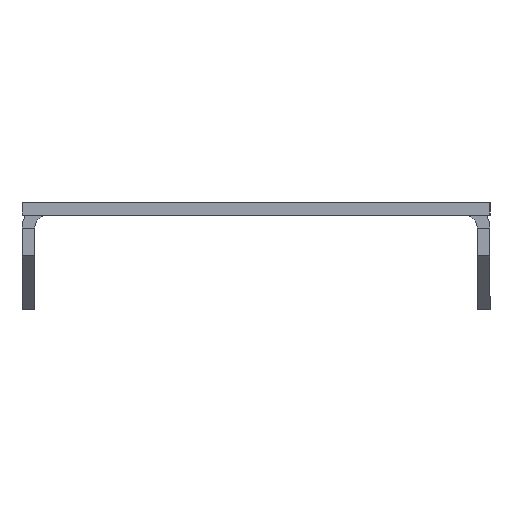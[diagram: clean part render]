
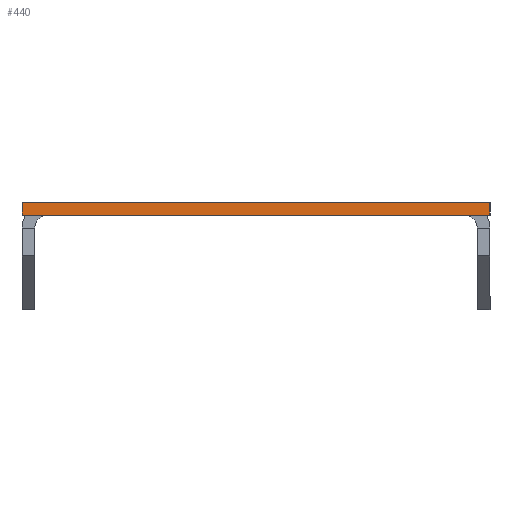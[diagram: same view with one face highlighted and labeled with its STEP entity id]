
A CAD part, left-side view. The second image highlights one B-rep face of the part: STEP entity #440.
In plain terms, the highlighted planar face has unit normal (-1, 0, 0).
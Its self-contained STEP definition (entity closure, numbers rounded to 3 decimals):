
#227 = CARTESIAN_POINT ( 'NONE',  ( -241.3, 21.8, 0. ) ) ;
#254 = CARTESIAN_POINT ( 'NONE',  ( -241.3, -21.8, 0. ) ) ;
#265 = CARTESIAN_POINT ( 'NONE',  ( -241.3, -21.8, 1.2 ) ) ;
#343 = EDGE_CURVE ( 'NONE', #547, #574, #1359, .T. ) ;
#366 = EDGE_CURVE ( 'NONE', #1690, #585, #1290, .T. ) ;
#381 = EDGE_CURVE ( 'NONE', #547, #1690, #1243, .T. ) ;
#382 = EDGE_CURVE ( 'NONE', #574, #585, #1240, .T. ) ;
#440 = ADVANCED_FACE ( 'NONE', ( #1771 ), #1064, .F. ) ;
#547 = VERTEX_POINT ( 'NONE', #733 ) ;
#574 = VERTEX_POINT ( 'NONE', #265 ) ;
#585 = VERTEX_POINT ( 'NONE', #254 ) ;
#647 = EDGE_LOOP ( 'NONE', ( #1482, #1483, #1481, #1485 ) ) ;
#733 = CARTESIAN_POINT ( 'NONE',  ( -241.3, 21.8, 1.2 ) ) ;
#1058 = DIRECTION ( 'NONE',  ( 0., 0., -1. ) ) ;
#1059 = DIRECTION ( 'NONE',  ( 1., 0., 0. ) ) ;
#1060 = CARTESIAN_POINT ( 'NONE',  ( -241.3, 21.8, 1.2 ) ) ;
#1064 = PLANE ( 'NONE',  #1768 ) ;
#1238 = DIRECTION ( 'NONE',  ( 0., 0., -1. ) ) ;
#1239 = CARTESIAN_POINT ( 'NONE',  ( -241.3, -21.8, 1.2 ) ) ;
#1240 = LINE ( 'NONE', #1239, #1766 ) ;
#1241 = DIRECTION ( 'NONE',  ( 0., 0., -1. ) ) ;
#1242 = CARTESIAN_POINT ( 'NONE',  ( -241.3, 21.8, 1.2 ) ) ;
#1243 = LINE ( 'NONE', #1242, #1724 ) ;
#1288 = DIRECTION ( 'NONE',  ( 0., -1., 0. ) ) ;
#1289 = CARTESIAN_POINT ( 'NONE',  ( -241.3, 21.8, 0. ) ) ;
#1290 = LINE ( 'NONE', #1289, #1772 ) ;
#1357 = DIRECTION ( 'NONE',  ( 0., -1., 0. ) ) ;
#1358 = CARTESIAN_POINT ( 'NONE',  ( -241.3, 21.8, 1.2 ) ) ;
#1359 = LINE ( 'NONE', #1358, #1749 ) ;
#1481 = ORIENTED_EDGE ( 'NONE', *, *, #343, .F. ) ;
#1482 = ORIENTED_EDGE ( 'NONE', *, *, #366, .T. ) ;
#1483 = ORIENTED_EDGE ( 'NONE', *, *, #382, .F. ) ;
#1485 = ORIENTED_EDGE ( 'NONE', *, *, #381, .T. ) ;
#1690 = VERTEX_POINT ( 'NONE', #227 ) ;
#1724 = VECTOR ( 'NONE', #1241, 1000. ) ;
#1749 = VECTOR ( 'NONE', #1357, 1000. ) ;
#1766 = VECTOR ( 'NONE', #1238, 1000. ) ;
#1768 = AXIS2_PLACEMENT_3D ( 'NONE', #1060, #1059, #1058 ) ;
#1771 = FACE_OUTER_BOUND ( 'NONE', #647, .T. ) ;
#1772 = VECTOR ( 'NONE', #1288, 1000. ) ;
